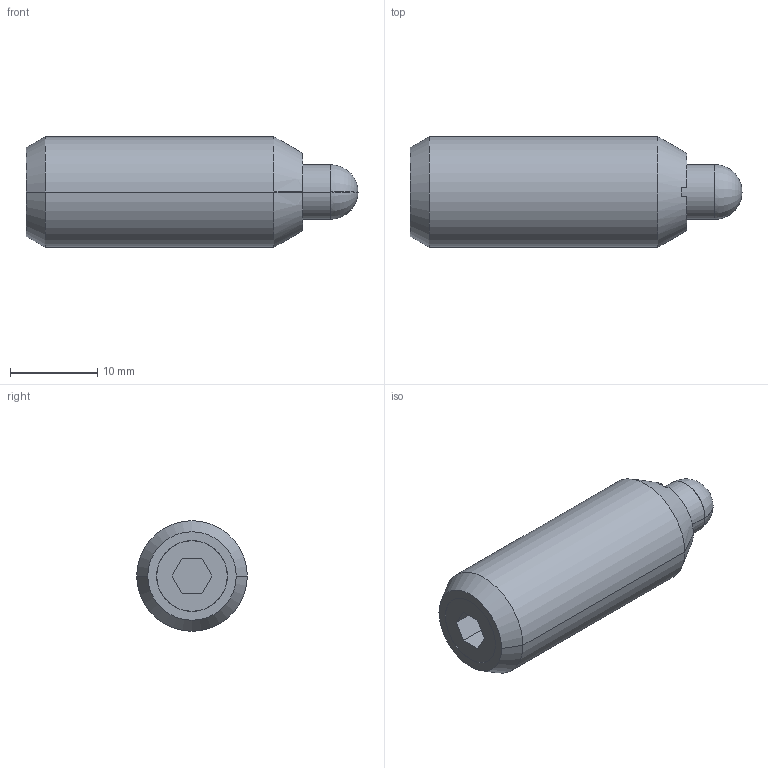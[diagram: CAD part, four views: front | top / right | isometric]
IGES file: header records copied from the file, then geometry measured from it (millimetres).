
Start section:  PTC IGES file: s60-3d.igs
Global section: file name: s60-3d.igs; native system: Pro/ENGINEER by Parametric Technology Corporation; preprocessor: 2002350; author: chant; organization: Unknown; date: 061031.142133; units: inch
Bounding box: 38.1 x 12.7 x 12.7 mm (x, y, z)
Surface area: 1704 mm2 (no closed solid volume)
Topology: 0 solids, 0 shells, 32 faces, 222 edges, 280 vertices
Faces by surface type: bspline 16, revolution 16
